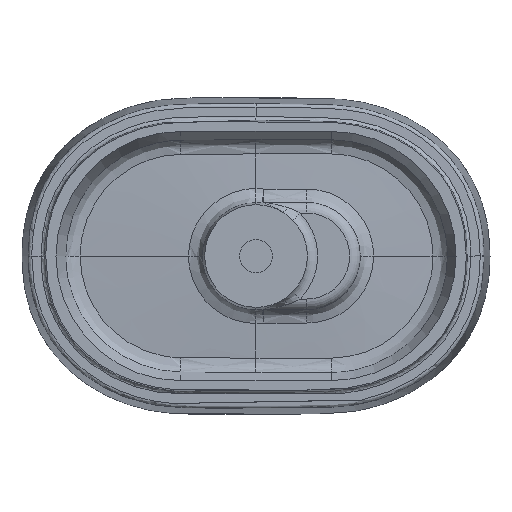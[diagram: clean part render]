
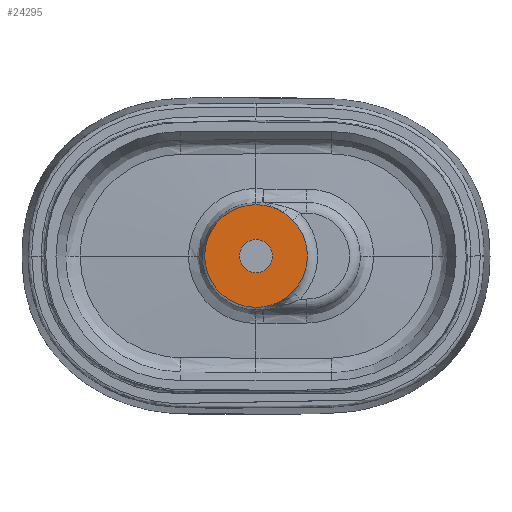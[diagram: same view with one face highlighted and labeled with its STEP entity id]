
A CAD part, front view. The second image highlights one B-rep face of the part: STEP entity #24295.
In plain terms, the highlighted planar face has unit normal (0, -1, 0).
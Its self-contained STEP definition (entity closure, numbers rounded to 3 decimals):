
#306 = EDGE_LOOP ( 'NONE', ( #13557, #18817 ) ) ;
#336 = VERTEX_POINT ( 'NONE', #9093 ) ;
#339 = DIRECTION ( 'NONE',  ( 0., 0., -1. ) ) ;
#661 = VERTEX_POINT ( 'NONE', #17630 ) ;
#854 = AXIS2_PLACEMENT_3D ( 'NONE', #5833, #19706, #7846 ) ;
#1324 = AXIS2_PLACEMENT_3D ( 'NONE', #14661, #2779, #16648 ) ;
#1331 = EDGE_CURVE ( 'NONE', #25300, #13378, #11826, .T. ) ;
#1425 = ORIENTED_EDGE ( 'NONE', *, *, #23168, .T. ) ;
#1669 = CARTESIAN_POINT ( 'NONE',  ( 0., -43., -68. ) ) ;
#1698 = AXIS2_PLACEMENT_3D ( 'NONE', #24117, #12233, #339 ) ;
#1882 = CIRCLE ( 'NONE', #1324, 22. ) ;
#2075 = AXIS2_PLACEMENT_3D ( 'NONE', #16801, #4916, #18804 ) ;
#2779 = DIRECTION ( 'NONE',  ( 0., -1., 0. ) ) ;
#2918 = ORIENTED_EDGE ( 'NONE', *, *, #12732, .T. ) ;
#3774 = CARTESIAN_POINT ( 'NONE',  ( 0., -43., 22. ) ) ;
#4916 = DIRECTION ( 'NONE',  ( 0., -1., 0. ) ) ;
#5216 = EDGE_CURVE ( 'NONE', #17518, #661, #24880, .T. ) ;
#5270 = ORIENTED_EDGE ( 'NONE', *, *, #24837, .T. ) ;
#5457 = CARTESIAN_POINT ( 'NONE',  ( 0., -43., 0. ) ) ;
#5833 = CARTESIAN_POINT ( 'NONE',  ( 0., -43., 0. ) ) ;
#7432 = ORIENTED_EDGE ( 'NONE', *, *, #5216, .T. ) ;
#7466 = DIRECTION ( 'NONE',  ( 0., 0., -1. ) ) ;
#7564 = PLANE ( 'NONE',  #24803 ) ;
#7675 = AXIS2_PLACEMENT_3D ( 'NONE', #20381, #8525, #22407 ) ;
#7846 = DIRECTION ( 'NONE',  ( 0., 0., -1. ) ) ;
#7945 = EDGE_LOOP ( 'NONE', ( #7432, #2918, #18758, #5270, #20922, #1425 ) ) ;
#8093 = CARTESIAN_POINT ( 'NONE',  ( 0., -43., 68. ) ) ;
#8525 = DIRECTION ( 'NONE',  ( 0., -1., 0. ) ) ;
#8714 = CARTESIAN_POINT ( 'NONE',  ( 0., -43., 0. ) ) ;
#8874 = CARTESIAN_POINT ( 'NONE',  ( 35.14, -43., 58.217 ) ) ;
#9093 = CARTESIAN_POINT ( 'NONE',  ( 0., -43., -22. ) ) ;
#9550 = DIRECTION ( 'NONE',  ( 0., -1., 0. ) ) ;
#10204 = FACE_BOUND ( 'NONE', #306, .T. ) ;
#10302 = CARTESIAN_POINT ( 'NONE',  ( 35.14, -43., -58.217 ) ) ;
#10713 = DIRECTION ( 'NONE',  ( 0., 0., -1. ) ) ;
#10813 = CARTESIAN_POINT ( 'NONE',  ( 48.743, -43., 47.415 ) ) ;
#11335 = AXIS2_PLACEMENT_3D ( 'NONE', #11626, #25502, #13611 ) ;
#11626 = CARTESIAN_POINT ( 'NONE',  ( 0., -43., 0. ) ) ;
#11826 = CIRCLE ( 'NONE', #18597, 68. ) ;
#11830 = VERTEX_POINT ( 'NONE', #3774 ) ;
#12233 = DIRECTION ( 'NONE',  ( 0., -1., 0. ) ) ;
#12700 = CIRCLE ( 'NONE', #854, 68. ) ;
#12732 = EDGE_CURVE ( 'NONE', #661, #25300, #14610, .T. ) ;
#12852 = CARTESIAN_POINT ( 'NONE',  ( 0., -43., 0. ) ) ;
#13378 = VERTEX_POINT ( 'NONE', #8874 ) ;
#13557 = ORIENTED_EDGE ( 'NONE', *, *, #14676, .F. ) ;
#13611 = DIRECTION ( 'NONE',  ( 0., 0., -1. ) ) ;
#13784 = EDGE_CURVE ( 'NONE', #11830, #336, #24856, .T. ) ;
#14610 = CIRCLE ( 'NONE', #1698, 68. ) ;
#14661 = CARTESIAN_POINT ( 'NONE',  ( 0., -43., 0. ) ) ;
#14676 = EDGE_CURVE ( 'NONE', #336, #11830, #1882, .T. ) ;
#16648 = DIRECTION ( 'NONE',  ( 0., 0., -1. ) ) ;
#16801 = CARTESIAN_POINT ( 'NONE',  ( 0., -43., 0. ) ) ;
#17518 = VERTEX_POINT ( 'NONE', #10302 ) ;
#17630 = CARTESIAN_POINT ( 'NONE',  ( 48.743, -43., -47.415 ) ) ;
#17979 = VERTEX_POINT ( 'NONE', #1669 ) ;
#18252 = CIRCLE ( 'NONE', #18996, 68. ) ;
#18597 = AXIS2_PLACEMENT_3D ( 'NONE', #8714, #22590, #10713 ) ;
#18758 = ORIENTED_EDGE ( 'NONE', *, *, #1331, .T. ) ;
#18804 = DIRECTION ( 'NONE',  ( 0., 0., -1. ) ) ;
#18817 = ORIENTED_EDGE ( 'NONE', *, *, #13784, .F. ) ;
#18996 = AXIS2_PLACEMENT_3D ( 'NONE', #5457, #19335, #7466 ) ;
#19335 = DIRECTION ( 'NONE',  ( 0., -1., 0. ) ) ;
#19706 = DIRECTION ( 'NONE',  ( 0., -1., 0. ) ) ;
#20068 = EDGE_CURVE ( 'NONE', #21548, #17979, #24801, .T. ) ;
#20102 = FACE_OUTER_BOUND ( 'NONE', #7945, .T. ) ;
#20381 = CARTESIAN_POINT ( 'NONE',  ( 0., -43., 0. ) ) ;
#20922 = ORIENTED_EDGE ( 'NONE', *, *, #20068, .T. ) ;
#21548 = VERTEX_POINT ( 'NONE', #8093 ) ;
#22407 = DIRECTION ( 'NONE',  ( 0., 0., -1. ) ) ;
#22590 = DIRECTION ( 'NONE',  ( 0., -1., 0. ) ) ;
#23168 = EDGE_CURVE ( 'NONE', #17979, #17518, #12700, .T. ) ;
#23425 = DIRECTION ( 'NONE',  ( 0., 0., -1. ) ) ;
#24117 = CARTESIAN_POINT ( 'NONE',  ( 0., -43., 0. ) ) ;
#24295 = ADVANCED_FACE ( 'NONE', ( #10204, #20102 ), #7564, .T. ) ;
#24801 = CIRCLE ( 'NONE', #11335, 68. ) ;
#24803 = AXIS2_PLACEMENT_3D ( 'NONE', #12852, #9550, #23425 ) ;
#24837 = EDGE_CURVE ( 'NONE', #13378, #21548, #18252, .T. ) ;
#24856 = CIRCLE ( 'NONE', #2075, 22. ) ;
#24880 = CIRCLE ( 'NONE', #7675, 68. ) ;
#25300 = VERTEX_POINT ( 'NONE', #10813 ) ;
#25502 = DIRECTION ( 'NONE',  ( 0., -1., 0. ) ) ;
